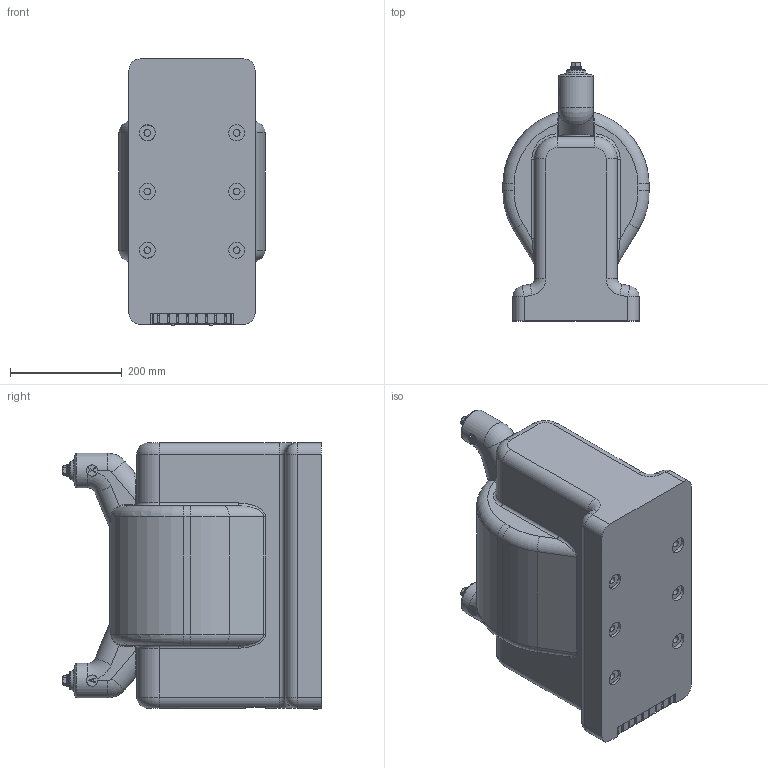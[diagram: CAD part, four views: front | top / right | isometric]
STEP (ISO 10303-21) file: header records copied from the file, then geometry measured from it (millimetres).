
FILE_DESCRIPTION(('STEP AP214'), '1');
FILE_NAME('ﾎﾋﾑ-ﾍﾒﾇ-10-6(10,20) ﾓﾕﾋ2, ﾒ2', '2022-06-30T07:57:03', ('UNSPECIFIED'), ('UNSPECIFIED'), 'ASCON STEP Converter 1.3', 'ASCON Math Kernel', '');
FILE_SCHEMA(('AUTOMOTIVE_DESIGN { 1 0 10303 214 3 1 1}'));
Length unit declared in the file: millimetre
Products named in the file (11): Êðûøêà çàùèòíàÿ
Assembly tree (31 placements, depth 2):
  (unnamed)
    (unnamed)  x7
    (unnamed)  x6
    (unnamed)  x6
    (unnamed)  x2
    Êðûøêà çàùèòíàÿ
    (unnamed)  x2
    (unnamed)  x2
    (unnamed)  x2
    (unnamed)  x2
    (unnamed)
Bounding box: 261.77 x 462.4 x 476.6 mm (x, y, z)
Volume: 38844.6 mm3; surface area: 765538.4 mm2
Topology: 41 solids, 42 shells, 814 faces, 1924 edges, 1213 vertices
Faces by surface type: plane 362, cylinder 326, torus 49, cone 41, sphere 18, bspline 18
Full cylindrical faces by diameter (mm): 3.459 x2, 4 x2, 4.5 x2, 6 x15, 6.4 x6, 7 x2, 8 x11, 8.376 x2, 10 x2, 11 x8, 12 x12, 20 x4, 29 x6, 62 x2
Entity records: 27267 total; most frequent: CARTESIAN_POINT 5923, DIRECTION 3310, ORIENTED_EDGE 2972, EDGE_CURVE 1487, AXIS2_PLACEMENT_3D 1264, VERTEX_POINT 989, LINE 782, VECTOR 782
